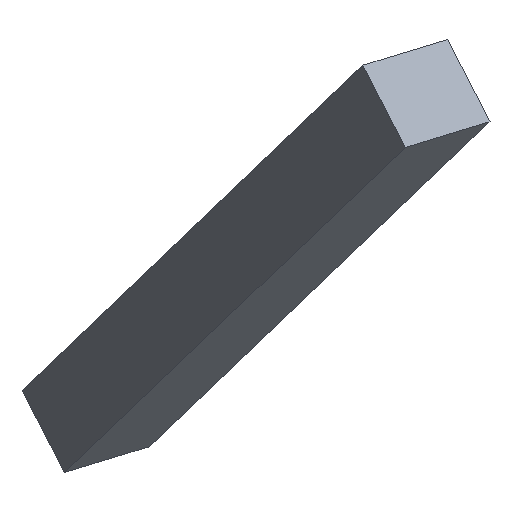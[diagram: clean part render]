
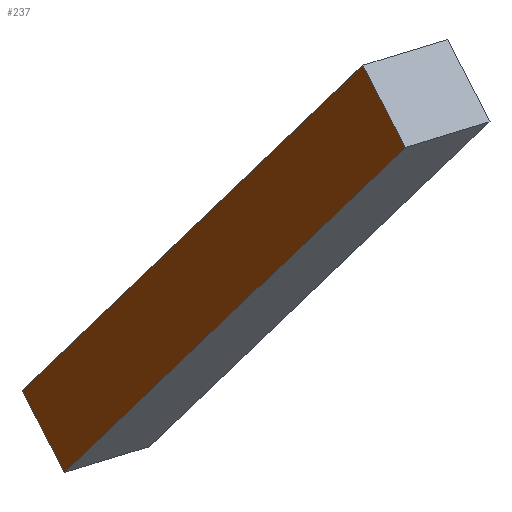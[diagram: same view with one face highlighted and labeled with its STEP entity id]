
A CAD part, front view. The second image highlights one B-rep face of the part: STEP entity #237.
In plain terms, the highlighted planar face has unit normal (-0.762, -0.604, -0.232).
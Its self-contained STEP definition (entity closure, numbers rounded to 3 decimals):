
#21 = EDGE_CURVE('',#22,#24,#26,.T.);
#22 = VERTEX_POINT('',#23);
#23 = CARTESIAN_POINT('',(-165.315,-173.24,68.384
    ));
#24 = VERTEX_POINT('',#25);
#25 = CARTESIAN_POINT('',(-251.315,-33.24,-13.616)
  );
#26 = SURFACE_CURVE('',#27,(#31,#43),.PCURVE_S1.);
#27 = LINE('',#28,#29);
#28 = CARTESIAN_POINT('',(-165.315,-173.24,68.384
    ));
#29 = VECTOR('',#30,1.);
#30 = DIRECTION('',(-0.468,0.762,-0.447));
#31 = PCURVE('',#32,#37);
#32 = PLANE('',#33);
#33 = AXIS2_PLACEMENT_3D('',#34,#35,#36);
#34 = CARTESIAN_POINT('',(-165.315,-173.24,68.384
    ));
#35 = DIRECTION('',(-0.447,0.232,0.864));
#36 = DIRECTION('',(-0.468,0.762,-0.447));
#37 = DEFINITIONAL_REPRESENTATION('',(#38),#42);
#38 = LINE('',#39,#40);
#39 = CARTESIAN_POINT('',(0.,0.));
#40 = VECTOR('',#41,1.);
#41 = DIRECTION('',(1.,0.));
#42 = ( GEOMETRIC_REPRESENTATION_CONTEXT(2) 
PARAMETRIC_REPRESENTATION_CONTEXT() REPRESENTATION_CONTEXT('2D SPACE',''
  ) );
#43 = PCURVE('',#44,#49);
#44 = PLANE('',#45);
#45 = AXIS2_PLACEMENT_3D('',#46,#47,#48);
#46 = CARTESIAN_POINT('',(-165.315,-173.24,68.384
    ));
#47 = DIRECTION('',(0.762,0.604,0.232));
#48 = DIRECTION('',(-0.468,0.762,-0.447));
#49 = DEFINITIONAL_REPRESENTATION('',(#50),#54);
#50 = LINE('',#51,#52);
#51 = CARTESIAN_POINT('',(0.,0.));
#52 = VECTOR('',#53,1.);
#53 = DIRECTION('',(1.,0.));
#54 = ( GEOMETRIC_REPRESENTATION_CONTEXT(2) 
PARAMETRIC_REPRESENTATION_CONTEXT() REPRESENTATION_CONTEXT('2D SPACE',''
  ) );
#72 = PLANE('',#73);
#73 = AXIS2_PLACEMENT_3D('',#74,#75,#76);
#74 = CARTESIAN_POINT('',(-165.315,-173.24,68.384
    ));
#75 = DIRECTION('',(-0.468,0.762,-0.447));
#76 = DIRECTION('',(-0.447,0.232,0.864));
#126 = PLANE('',#127);
#127 = AXIS2_PLACEMENT_3D('',#128,#129,#130);
#128 = CARTESIAN_POINT('',(-251.315,-33.24,-13.616
    ));
#129 = DIRECTION('',(-0.468,0.762,-0.447));
#130 = DIRECTION('',(-0.447,0.232,0.864));
#141 = EDGE_CURVE('',#142,#144,#146,.T.);
#142 = VERTEX_POINT('',#143);
#143 = CARTESIAN_POINT('',(-176.032,-167.676,
    89.124));
#144 = VERTEX_POINT('',#145);
#145 = CARTESIAN_POINT('',(-262.032,-27.676,
    7.124));
#146 = SURFACE_CURVE('',#147,(#151,#163),.PCURVE_S1.);
#147 = LINE('',#148,#149);
#148 = CARTESIAN_POINT('',(-176.032,-167.676,
    89.124));
#149 = VECTOR('',#150,1.);
#150 = DIRECTION('',(-0.468,0.762,-0.447));
#151 = PCURVE('',#152,#157);
#152 = PLANE('',#153);
#153 = AXIS2_PLACEMENT_3D('',#154,#155,#156);
#154 = CARTESIAN_POINT('',(-176.032,-167.676,
    89.124));
#155 = DIRECTION('',(-0.447,0.232,0.864));
#156 = DIRECTION('',(-0.468,0.762,-0.447));
#157 = DEFINITIONAL_REPRESENTATION('',(#158),#162);
#158 = LINE('',#159,#160);
#159 = CARTESIAN_POINT('',(0.,0.));
#160 = VECTOR('',#161,1.);
#161 = DIRECTION('',(1.,0.));
#162 = ( GEOMETRIC_REPRESENTATION_CONTEXT(2) 
PARAMETRIC_REPRESENTATION_CONTEXT() REPRESENTATION_CONTEXT('2D SPACE',''
  ) );
#163 = PCURVE('',#44,#164);
#164 = DEFINITIONAL_REPRESENTATION('',(#165),#169);
#165 = LINE('',#166,#167);
#166 = CARTESIAN_POINT('',(0.,24.));
#167 = VECTOR('',#168,1.);
#168 = DIRECTION('',(1.,0.));
#169 = ( GEOMETRIC_REPRESENTATION_CONTEXT(2) 
PARAMETRIC_REPRESENTATION_CONTEXT() REPRESENTATION_CONTEXT('2D SPACE',''
  ) );
#237 = ADVANCED_FACE('',(#238),#44,.F.);
#238 = FACE_BOUND('',#239,.F.);
#239 = EDGE_LOOP('',(#240,#261,#262,#283));
#240 = ORIENTED_EDGE('',*,*,#241,.F.);
#241 = EDGE_CURVE('',#22,#142,#242,.T.);
#242 = SURFACE_CURVE('',#243,(#247,#254),.PCURVE_S1.);
#243 = LINE('',#244,#245);
#244 = CARTESIAN_POINT('',(-165.315,-173.24,
    68.384));
#245 = VECTOR('',#246,1.);
#246 = DIRECTION('',(-0.447,0.232,0.864));
#247 = PCURVE('',#44,#248);
#248 = DEFINITIONAL_REPRESENTATION('',(#249),#253);
#249 = LINE('',#250,#251);
#250 = CARTESIAN_POINT('',(0.,0.));
#251 = VECTOR('',#252,1.);
#252 = DIRECTION('',(0.,1.));
#253 = ( GEOMETRIC_REPRESENTATION_CONTEXT(2) 
PARAMETRIC_REPRESENTATION_CONTEXT() REPRESENTATION_CONTEXT('2D SPACE',''
  ) );
#254 = PCURVE('',#72,#255);
#255 = DEFINITIONAL_REPRESENTATION('',(#256),#260);
#256 = LINE('',#257,#258);
#257 = CARTESIAN_POINT('',(0.,0.));
#258 = VECTOR('',#259,1.);
#259 = DIRECTION('',(1.,0.));
#260 = ( GEOMETRIC_REPRESENTATION_CONTEXT(2) 
PARAMETRIC_REPRESENTATION_CONTEXT() REPRESENTATION_CONTEXT('2D SPACE',''
  ) );
#261 = ORIENTED_EDGE('',*,*,#21,.T.);
#262 = ORIENTED_EDGE('',*,*,#263,.T.);
#263 = EDGE_CURVE('',#24,#144,#264,.T.);
#264 = SURFACE_CURVE('',#265,(#269,#276),.PCURVE_S1.);
#265 = LINE('',#266,#267);
#266 = CARTESIAN_POINT('',(-251.315,-33.24,-13.616
    ));
#267 = VECTOR('',#268,1.);
#268 = DIRECTION('',(-0.447,0.232,0.864));
#269 = PCURVE('',#44,#270);
#270 = DEFINITIONAL_REPRESENTATION('',(#271),#275);
#271 = LINE('',#272,#273);
#272 = CARTESIAN_POINT('',(183.63,0.));
#273 = VECTOR('',#274,1.);
#274 = DIRECTION('',(0.,1.));
#275 = ( GEOMETRIC_REPRESENTATION_CONTEXT(2) 
PARAMETRIC_REPRESENTATION_CONTEXT() REPRESENTATION_CONTEXT('2D SPACE',''
  ) );
#276 = PCURVE('',#126,#277);
#277 = DEFINITIONAL_REPRESENTATION('',(#278),#282);
#278 = LINE('',#279,#280);
#279 = CARTESIAN_POINT('',(0.,0.));
#280 = VECTOR('',#281,1.);
#281 = DIRECTION('',(1.,0.));
#282 = ( GEOMETRIC_REPRESENTATION_CONTEXT(2) 
PARAMETRIC_REPRESENTATION_CONTEXT() REPRESENTATION_CONTEXT('2D SPACE',''
  ) );
#283 = ORIENTED_EDGE('',*,*,#141,.F.);
